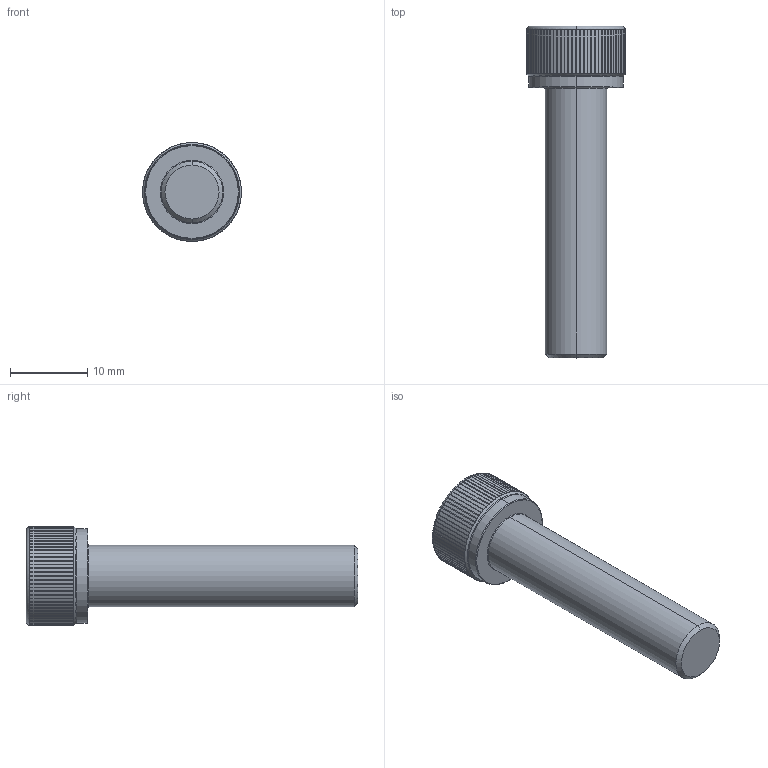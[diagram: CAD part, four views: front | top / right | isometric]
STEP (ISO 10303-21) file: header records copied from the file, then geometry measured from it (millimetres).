
FILE_DESCRIPTION (( 'STEP AP203' ), '1' );
FILE_NAME ('LGDT-304-M8x35.STEP', '2026-08-10T06:44:57', ( '' ), ( '' ), 'SwSTEP 2.0', 'SolidWorks 2020', '' );
FILE_SCHEMA (( 'CONFIG_CONTROL_DESIGN' ));
Length unit declared in the file: millimetre
Products named in the file (1): LGDT-304-M8x35
Bounding box: 12.8 x 43 x 12.8 mm (x, y, z)
Volume: 2607.7 mm3; surface area: 1533.2 mm2
Topology: 1 solids, 1 shells, 204 faces, 576 edges, 376 vertices
Faces by surface type: cylinder 175, cone 11, plane 10, torus 8
Entity records: 8367 total; most frequent: CARTESIAN_POINT 3208, ORIENTED_EDGE 1152, DIRECTION 988, EDGE_CURVE 576, AXIS2_PLACEMENT_3D 398, VERTEX_POINT 376, EDGE_LOOP 206, FACE_OUTER_BOUND 204
